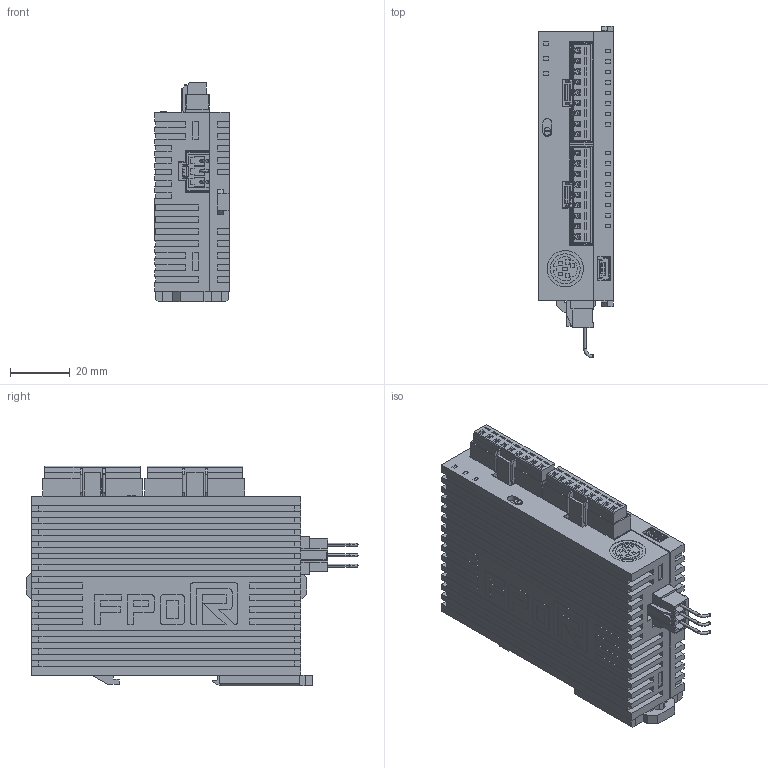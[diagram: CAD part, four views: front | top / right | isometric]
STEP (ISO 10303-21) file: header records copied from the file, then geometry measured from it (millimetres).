
FILE_DESCRIPTION (( 'STEP AP203' ), '1' );
FILE_NAME ('afp0rc14rm.STEP', '2013-06-28T02:58:34', ( 'sunx' ), ( 'sunx' ), 'SwSTEP 2.0', 'SolidWorks 2010', '' );
FILE_SCHEMA (( 'CONFIG_CONTROL_DESIGN' ));
Length unit declared in the file: millimetre
Products named in the file (1): afp0rc14rm
Bounding box: 25 x 111.2 x 73.6 mm (x, y, z)
Volume: 137817 mm3; surface area: 30511.5 mm2
Topology: 1 solids, 1 shells, 1540 faces, 4126 edges, 2682 vertices
Faces by surface type: plane 1447, cylinder 69, bspline 18, torus 6
Entity records: 47308 total; most frequent: CARTESIAN_POINT 8709, ORIENTED_EDGE 8252, DIRECTION 7273, EDGE_CURVE 4126, VECTOR 3965, LINE 3965, VERTEX_POINT 2682, EDGE_LOOP 1686
